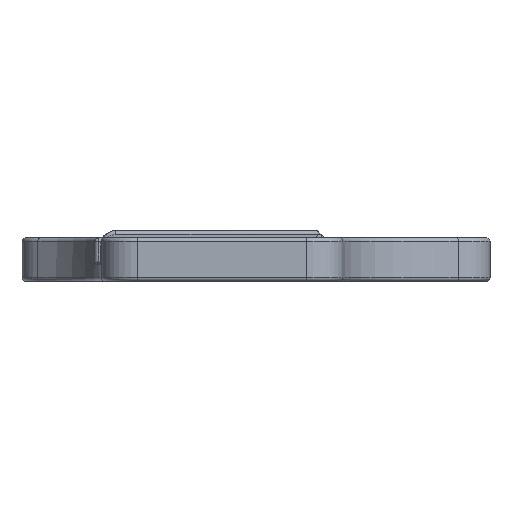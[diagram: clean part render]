
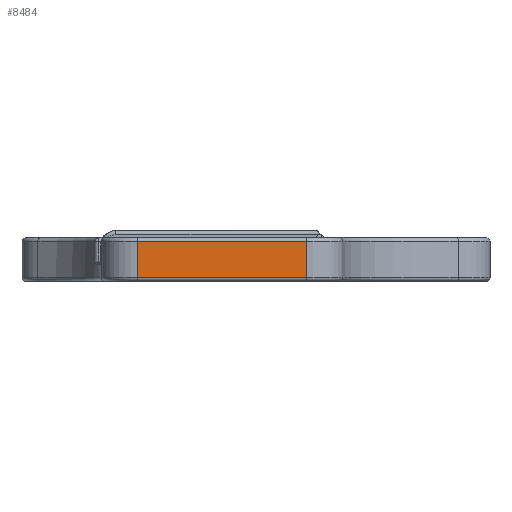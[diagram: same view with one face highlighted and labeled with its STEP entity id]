
A CAD part, left-side view. The second image highlights one B-rep face of the part: STEP entity #8484.
In plain terms, the highlighted planar face has unit normal (-1, 0, 0).
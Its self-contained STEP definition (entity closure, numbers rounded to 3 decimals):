
#8471=AXIS2_PLACEMENT_3D('Plane Axis2P3D',#8468,#8469,#8470) ;
#4501=CARTESIAN_POINT('Vertex',(-45.,19.,0.5)) ;
#4859=CARTESIAN_POINT('Vertex',(-45.,-4.5,0.5)) ;
#4879=CARTESIAN_POINT('Line Origine',(-45.,2.538,0.5)) ;
#5250=CARTESIAN_POINT('Vertex',(-45.,19.,5.5)) ;
#5301=CARTESIAN_POINT('Line Origine',(-45.,2.538,5.5)) ;
#5305=CARTESIAN_POINT('Vertex',(-45.,-4.5,5.5)) ;
#7764=CARTESIAN_POINT('Line Origine',(-45.,-4.5,3.5)) ;
#8468=CARTESIAN_POINT('Axis2P3D Location',(-45.,-4.5,0.)) ;
#8473=CARTESIAN_POINT('Line Origine',(-45.,19.,3.)) ;
#4880=DIRECTION('Vector Direction',(0.,1.,0.)) ;
#5302=DIRECTION('Vector Direction',(0.,-1.,0.)) ;
#7765=DIRECTION('Vector Direction',(0.,0.,1.)) ;
#8469=DIRECTION('Axis2P3D Direction',(1.,0.,0.)) ;
#8470=DIRECTION('Axis2P3D XDirection',(0.,1.,0.)) ;
#8474=DIRECTION('Vector Direction',(0.,0.,1.)) ;
#4881=VECTOR('Line Direction',#4880,1.) ;
#5303=VECTOR('Line Direction',#5302,1.) ;
#7766=VECTOR('Line Direction',#7765,1.) ;
#8475=VECTOR('Line Direction',#8474,1.) ;
#8479=ORIENTED_EDGE('',*,*,#4883,.T.) ;
#8480=ORIENTED_EDGE('',*,*,#7768,.T.) ;
#8481=ORIENTED_EDGE('',*,*,#5307,.F.) ;
#8482=ORIENTED_EDGE('',*,*,#8477,.F.) ;
#8484=ADVANCED_FACE('v5_Inserti',(#8483),#8472,.F.) ;
#4883=EDGE_CURVE('',#4502,#4860,#4882,.F.) ;
#5307=EDGE_CURVE('',#5251,#5306,#5304,.T.) ;
#7768=EDGE_CURVE('',#4860,#5306,#7767,.T.) ;
#8477=EDGE_CURVE('',#4502,#5251,#8476,.T.) ;
#8478=EDGE_LOOP('',(#8479,#8480,#8481,#8482)) ;
#8483=FACE_OUTER_BOUND('',#8478,.T.) ;
#4882=LINE('Line',#4879,#4881) ;
#5304=LINE('Line',#5301,#5303) ;
#7767=LINE('Line',#7764,#7766) ;
#8476=LINE('Line',#8473,#8475) ;
#8472=PLANE('',#8471) ;
#4502=VERTEX_POINT('',#4501) ;
#4860=VERTEX_POINT('',#4859) ;
#5251=VERTEX_POINT('',#5250) ;
#5306=VERTEX_POINT('',#5305) ;
